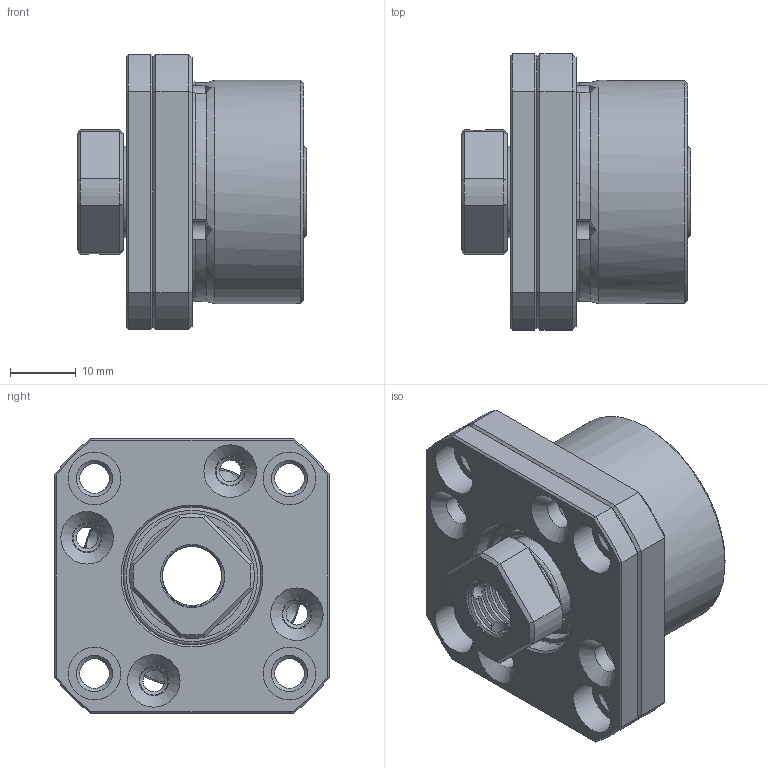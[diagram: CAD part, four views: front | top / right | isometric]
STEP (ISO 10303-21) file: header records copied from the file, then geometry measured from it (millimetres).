
FILE_DESCRIPTION(('STEP AP214'), '1');
FILE_NAME('FK10', '', ('UNSPECIFIED'), ('UNSPECIFIED'), 'ASCON STEP Converter 1.3', 'ASCON Math Kernel', '');
FILE_SCHEMA(('AUTOMOTIVE_DESIGN { 1 0 10303 214 3 1 1}'));
Length unit declared in the file: millimetre
Bounding box: 35 x 42 x 42 mm (x, y, z)
Volume: 25635.9 mm3; surface area: 21329.2 mm2
Topology: 29 solids, 29 shells, 297 faces, 735 edges, 462 vertices
Faces by surface type: cylinder 75, plane 66, cone 61, torus 45, sphere 36, bspline 14
Full cylindrical faces by diameter (mm): 2.6 x2, 3.3 x4, 4.5 x8, 8 x4, 10 x4, 14 x1, 14.1 x2, 15 x2, 15.4 x4, 17 x2, 19 x2, 20.6 x2, 21 x4, 23 x2, 26 x4, 27 x1, 34 x1
Entity records: 23696 total; most frequent: CARTESIAN_POINT 15252, DIRECTION 1107, ORIENTED_EDGE 1050, EDGE_CURVE 525, AXIS2_PLACEMENT_3D 510, EDGE_LOOP 477, VERTEX_POINT 408, COLOUR_RGB 326
